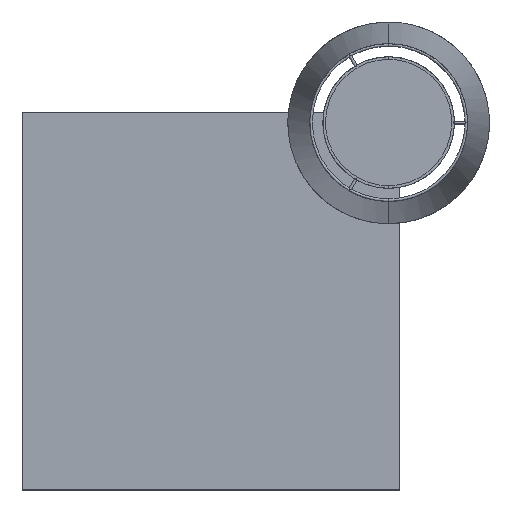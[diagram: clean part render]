
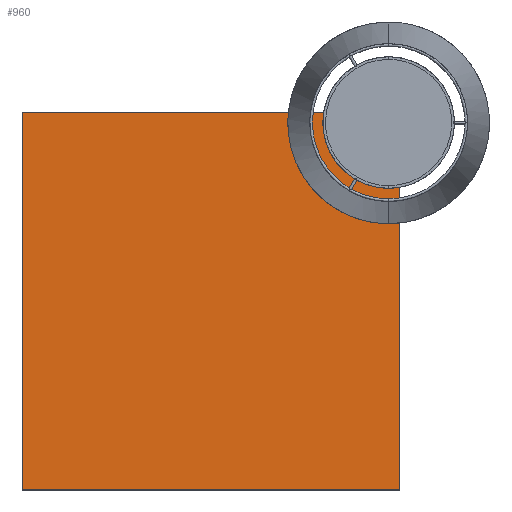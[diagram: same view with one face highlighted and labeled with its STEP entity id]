
A CAD part, top view. The second image highlights one B-rep face of the part: STEP entity #960.
In plain terms, the highlighted planar face has unit normal (0, 0, 1).
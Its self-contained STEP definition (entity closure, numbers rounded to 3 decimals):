
#521=B_SPLINE_CURVE_WITH_KNOTS('',1,(#19921,#19922),.UNSPECIFIED.,.F.,.F.,
(2,2),(1720.,2150.),.UNSPECIFIED.);
#524=B_SPLINE_CURVE_WITH_KNOTS('',1,(#19927,#19928),.UNSPECIFIED.,.F.,.F.,
(2,2),(2150.,2580.),.UNSPECIFIED.);
#526=B_SPLINE_CURVE_WITH_KNOTS('',1,(#19931,#19932),.UNSPECIFIED.,.F.,.F.,
(2,2),(2580.,2985.),.UNSPECIFIED.);
#531=B_SPLINE_CURVE_WITH_KNOTS('',1,(#19941,#19942),.UNSPECIFIED.,.F.,.F.,
(2,2),(-25.,0.),.UNSPECIFIED.);
#532=B_SPLINE_CURVE_WITH_KNOTS('',1,(#19943,#19944),.UNSPECIFIED.,.F.,.F.,
(2,2),(0.,25.),.UNSPECIFIED.);
#534=B_SPLINE_CURVE_WITH_KNOTS('',1,(#19947,#19948),.UNSPECIFIED.,.F.,.F.,
(2,2),(1315.,1720.),.UNSPECIFIED.);
#960=ADVANCED_FACE('',(#1374),#6293,.T.);
#1374=FACE_OUTER_BOUND('',#1798,.T.);
#1798=EDGE_LOOP('',(#3729,#3730,#3731,#3732,#3733,#3734));
#3729=ORIENTED_EDGE('',*,*,#4886,.T.);
#3730=ORIENTED_EDGE('',*,*,#4889,.T.);
#3731=ORIENTED_EDGE('',*,*,#4876,.T.);
#3732=ORIENTED_EDGE('',*,*,#4879,.T.);
#3733=ORIENTED_EDGE('',*,*,#4881,.T.);
#3734=ORIENTED_EDGE('',*,*,#4887,.T.);
#4876=EDGE_CURVE('',#6084,#6086,#521,.T.);
#4879=EDGE_CURVE('',#6086,#6088,#524,.T.);
#4881=EDGE_CURVE('',#6088,#6092,#526,.T.);
#4886=EDGE_CURVE('',#6094,#6089,#531,.T.);
#4887=EDGE_CURVE('',#6092,#6094,#532,.T.);
#4889=EDGE_CURVE('',#6089,#6084,#534,.T.);
#6084=VERTEX_POINT('',#19904);
#6086=VERTEX_POINT('',#19906);
#6088=VERTEX_POINT('',#19908);
#6089=VERTEX_POINT('',#19909);
#6092=VERTEX_POINT('',#19912);
#6094=VERTEX_POINT('',#19914);
#6293=PLANE('',#6705);
#6705=AXIS2_PLACEMENT_3D('',#19900,#6865,$);
#6865=DIRECTION('',(0.,0.,1.));
#19900=CARTESIAN_POINT('',(-215.,215.,444.));
#19904=CARTESIAN_POINT('',(-215.,215.,444.));
#19906=CARTESIAN_POINT('',(-215.,-215.,444.));
#19908=CARTESIAN_POINT('',(215.,-215.,444.));
#19909=CARTESIAN_POINT('',(190.,215.,444.));
#19912=CARTESIAN_POINT('',(215.,190.,444.));
#19914=CARTESIAN_POINT('',(190.,190.,444.));
#19921=CARTESIAN_POINT('',(-215.,215.,444.));
#19922=CARTESIAN_POINT('',(-215.,-215.,444.));
#19927=CARTESIAN_POINT('',(-215.,-215.,444.));
#19928=CARTESIAN_POINT('',(215.,-215.,444.));
#19931=CARTESIAN_POINT('',(215.,-215.,444.));
#19932=CARTESIAN_POINT('',(215.,190.,444.));
#19941=CARTESIAN_POINT('',(190.,190.,444.));
#19942=CARTESIAN_POINT('',(190.,215.,444.));
#19943=CARTESIAN_POINT('',(215.,190.,444.));
#19944=CARTESIAN_POINT('',(190.,190.,444.));
#19947=CARTESIAN_POINT('',(190.,215.,444.));
#19948=CARTESIAN_POINT('',(-215.,215.,444.));
